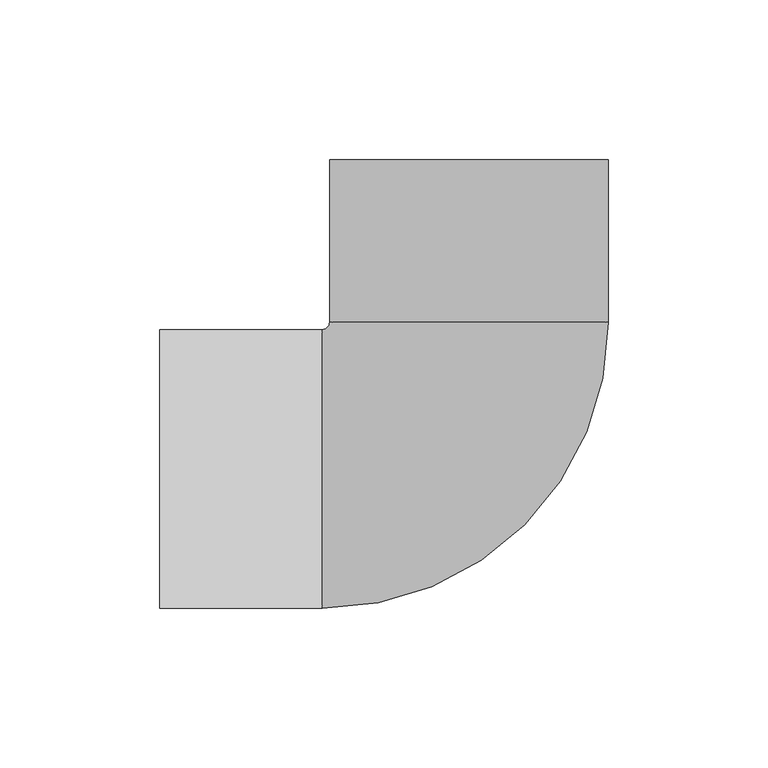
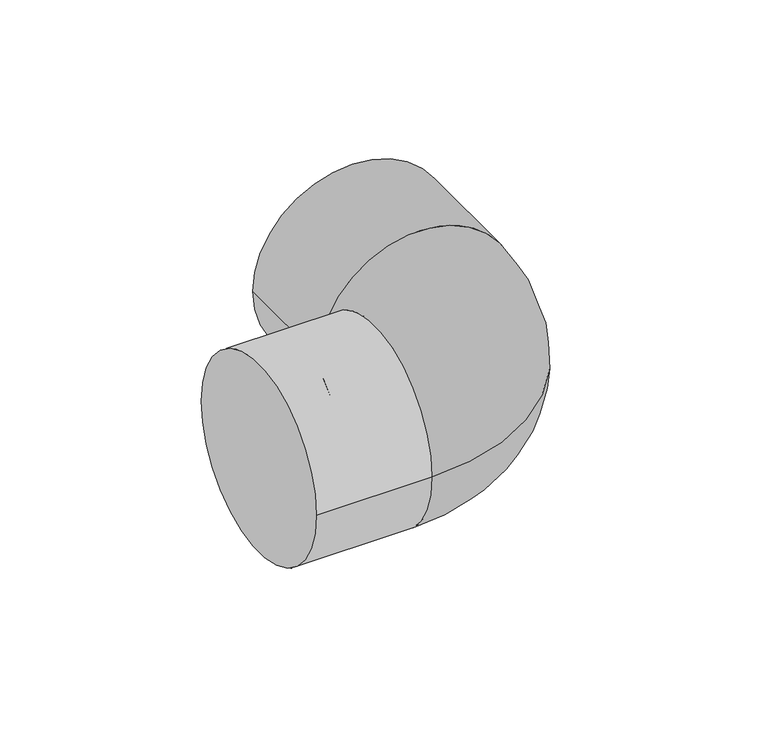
"""IFC4 building model written with IfcOpenShell, lengths in millimetres: pipe fitting geometry, 01051001 : Coudes à 90º."""

from ifc_helpers import new_model, si_unit, point, frame, origin, place, context, project, spatial, circle_curve, ellipse_curve, trimmed, source, transform, mapped, element, save
from ifc_brep_helpers import plane_surface, cylinder_surface, revolved_surface, advanced_brep


def pipe_fitting_04e0adce(model_context):
    return source(origin(), model_context, "Body", "AdvancedBrep", [
        advanced_brep(
        [(-46.0, -43.7, 0.0), (43.7, 46.0, 0.0), (-43.7, 46.0, 0.0), (-46.0, 43.7, 0.0), (-43.7, 97.0, 0.0), (43.7, 97.0, 0.0), (-97.0, 43.7, 0.0), (-97.0, -43.7, 0.0)],
        [
            (0, 1, circle_curve(frame((-46.0, 46.0, 0.0), z_axis=(0.0, 0.0, 1.0), x_axis=(1.0, 0.0, 0.0)), 89.7)),
            (1, 2, circle_curve(frame((0.0, 46.0, 0.0), z_axis=(0.0, -1.0, 0.0), x_axis=(1.0, 0.0, 0.0)), 43.7)),
            (2, 3, circle_curve(frame((-46.0, 46.0, 0.0), z_axis=(0.0, 0.0, -1.0), x_axis=(1.0, 0.0, 0.0)), 2.3)),
            (3, 0, circle_curve(frame((-46.0, 0.0, 0.0), z_axis=(1.0, 0.0, 0.0), x_axis=(0.0, -1.0, 0.0)), 43.7)),
            (2, 1, circle_curve(frame((0.0, 46.0, 0.0), z_axis=(0.0, -1.0, 0.0), x_axis=(1.0, 0.0, 0.0)), 43.7)),
            (0, 3, circle_curve(frame((-46.0, 0.0, 0.0), z_axis=(1.0, 0.0, 0.0), x_axis=(0.0, -1.0, 0.0)), 43.7)),
            (4, 5, circle_curve(frame((0.0, 97.0, 0.0), z_axis=(0.0, 1.0, 0.0), x_axis=(1.0, 0.0, 0.0)), 43.7)),
            (5, 4, circle_curve(frame((0.0, 97.0, 0.0), z_axis=(0.0, 1.0, 0.0), x_axis=(1.0, 0.0, 0.0)), 43.7)),
            (4, 2),
            (1, 5),
            (6, 7, circle_curve(frame((-97.0, 0.0, 0.0), z_axis=(-1.0, 0.0, 0.0), x_axis=(0.0, -1.0, 0.0)), 43.7)),
            (7, 6, circle_curve(frame((-97.0, 0.0, 0.0), z_axis=(-1.0, 0.0, 0.0), x_axis=(0.0, -1.0, 0.0)), 43.7)),
            (3, 6),
            (7, 0),
        ],
        [
            revolved_surface(trimmed(ellipse_curve(frame((0.0, 46.0, 0.0), z_axis=(0.0, 1.0, 0.0), x_axis=(1.0, 0.0, 0.0)), 43.7, 43.7), [point((-43.7, 46.0, 0.0))], [point((43.7, 46.0, 0.0))], True, "CARTESIAN"), (-46.0, 46.0, 0.0), (0.0, 0.0, -1.0)),
            revolved_surface(trimmed(ellipse_curve(frame((0.0, 46.0, 0.0), z_axis=(0.0, 1.0, 0.0), x_axis=(1.0, 0.0, 0.0)), 43.7, 43.7), [point((43.7, 46.0, 0.0))], [point((-43.7, 46.0, 0.0))], True, "CARTESIAN"), (-46.0, 46.0, 0.0), (0.0, 0.0, -1.0)),
            plane_surface(frame((0.0, 97.0, 0.0), z_axis=(0.0, 1.0, 0.0), x_axis=(0.0, 0.0, 1.0))),
            cylinder_surface(frame((0.0, 97.0, 0.0), z_axis=(0.0, 1.0, 0.0), x_axis=(1.0, 0.0, 0.0)), 43.7),
            plane_surface(frame((-97.0, 0.0, 0.0), z_axis=(-1.0, 0.0, 0.0), x_axis=(0.0, 0.0, 1.0))),
            cylinder_surface(frame((-46.0, 0.0, 0.0), z_axis=(1.0, 0.0, 0.0), x_axis=(0.0, -1.0, 0.0)), 43.7),
        ],
        [
            (0, [[1, 2, 3, 4]]),
            (1, [[-3, 5, -1, 6]]),
            (2, [[7, 8]]),
            (3, [[-7, 9, -2, 10]]),
            (3, [[-8, -10, -5, -9]]),
            (4, [[11, 12]]),
            (5, [[-4, 13, -12, 14]]),
            (5, [[-6, -14, -11, -13]]),
        ],
    ),
    ])


if __name__ == "__main__":
    model = new_model("IFC4")
    model_context = context("Model", 3, world=origin())
    ifc_project = project(units=[si_unit("LENGTHUNIT", "METRE", prefix="MILLI")], contexts=[model_context])
    site = spatial("IfcSite", under=ifc_project)
    building = spatial("IfcBuilding", under=site)
    placement = place(None, origin())
    pipe_fitting_shape = pipe_fitting_04e0adce(model_context)
    element("IfcPipeFitting", 1, ObjectType="01051001 : Coudes à 90º", at=placement, inside=building, context=model_context, shape_type="MappedRepresentation", body=[
        mapped(pipe_fitting_shape, transform((0.0, 0.0, 0.0), x_axis=(1.0, 0.0, 0.0), y_axis=(0.0, 1.0, 0.0), z_axis=(0.0, 0.0, 1.0))),
    ])
    save(model, "model.ifc")
